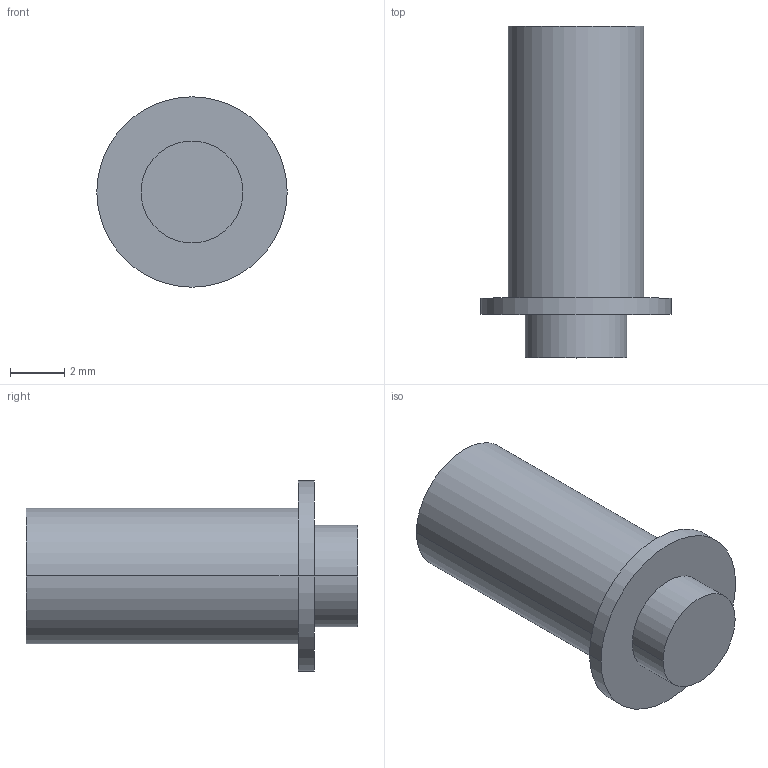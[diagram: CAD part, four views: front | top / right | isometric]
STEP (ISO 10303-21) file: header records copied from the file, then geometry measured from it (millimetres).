
FILE_DESCRIPTION (( 'STEP AP214' ), '1' );
FILE_NAME ('Frontpuffer_D5_gefedert 2,2mm.step', '2010-10-15T08:27:12', ( 'grass' ), ( '' ), 'SwSTEP 2.0', 'SolidWorks 2010', '' );
FILE_SCHEMA (( 'AUTOMOTIVE_DESIGN' ));
Length unit declared in the file: millimetre
Products named in the file (1): Frontpuffer_D5_gefedert 2,2mm
Bounding box: 7 x 12.2 x 7 mm (x, y, z)
Volume: 237.1 mm3; surface area: 266.1 mm2
Topology: 1 solids, 1 shells, 10 faces, 18 edges, 12 vertices
Faces by surface type: cylinder 6, plane 4
Entity records: 288 total; most frequent: DIRECTION 52, CARTESIAN_POINT 41, ORIENTED_EDGE 36, AXIS2_PLACEMENT_3D 23, EDGE_CURVE 18, CIRCLE 12, EDGE_LOOP 12, VERTEX_POINT 12
